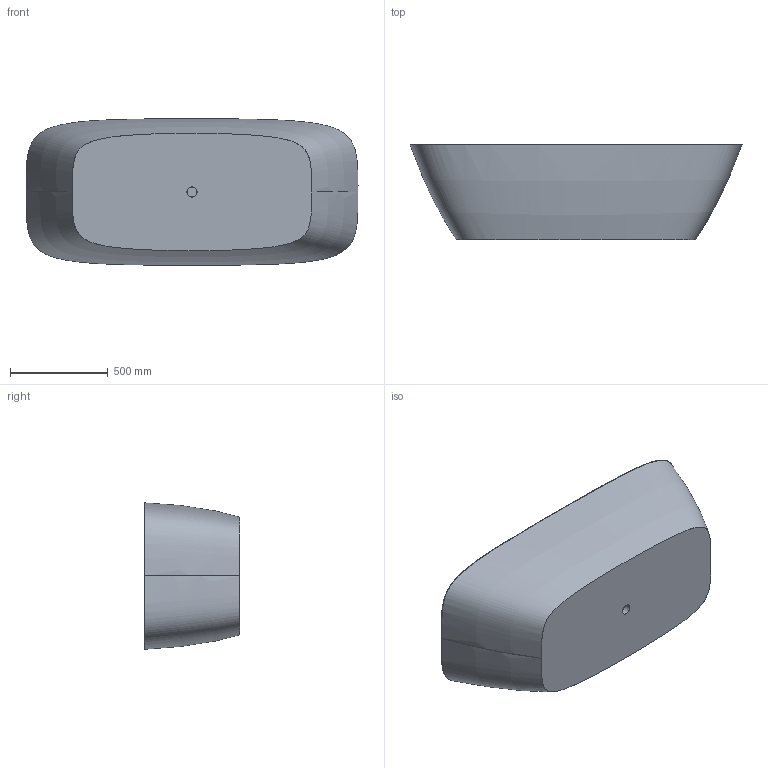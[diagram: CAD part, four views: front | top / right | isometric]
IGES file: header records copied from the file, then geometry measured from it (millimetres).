
Start section: SolidWorks IGES file using analytic representation for surfaces
Global section: file name: D:\Users\M.Szymanski\Desktop\Wanny\LaSenia\03. do przegrania\44\WP_LaSENIA_75x170x44.IGS; native system: SolidWorks 2011; preprocessor: SolidWorks 2011; author: M.Szymanski; date: 180530.111713; units: millimetre
Bounding box: 1699.5 x 490 x 749.88 mm (x, y, z)
Surface area: 5111122.6 mm2 (no closed solid volume)
Topology: 0 solids, 0 shells, 49 faces, 1436 edges, 1435 vertices
Faces by surface type: bspline 37, revolution 12
